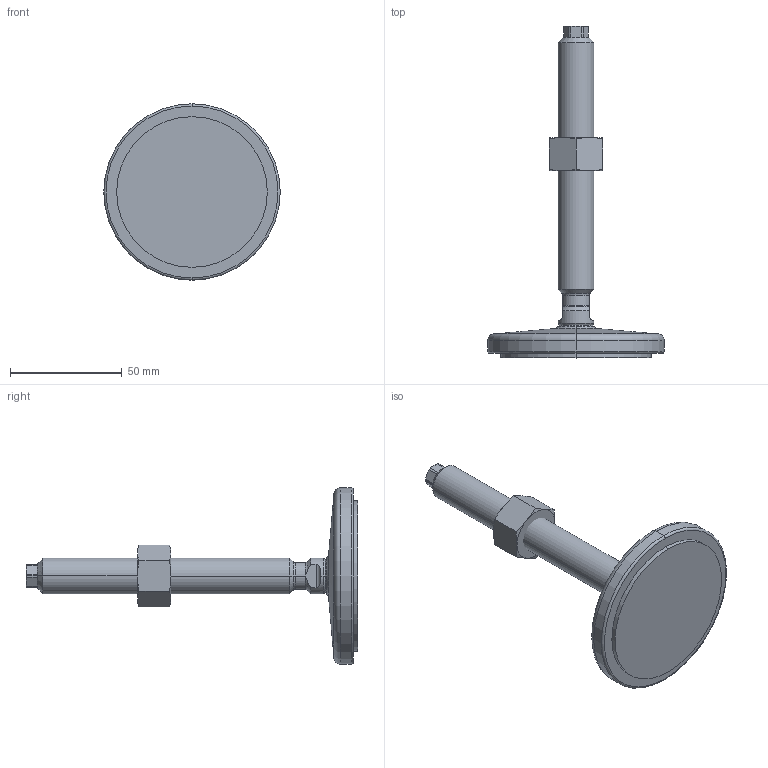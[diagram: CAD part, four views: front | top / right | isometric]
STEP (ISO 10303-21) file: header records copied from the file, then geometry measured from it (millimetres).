
FILE_DESCRIPTION (( 'STEP AP214' ), '1' );
FILE_NAME ('21-80-M16-125-D1-VK.step', '2020-10-02T17:36:28', ( '' ), ( '' ), 'SwSTEP 2.0', 'SolidWorks 2019', '' );
FILE_SCHEMA (( 'AUTOMOTIVE_DESIGN' ));
Length unit declared in the file: millimetre
Products named in the file (4): 21-80-M16-125-D1-VK; WB4032^WB21_V_M16; WB21_Spindel_V^WB21_V_M16-125; WB21_Fußteller 21^WB21_V_D1-080-R10-B7 (M8 M10_M12_M16)
Assembly tree (3 placements, depth 2):
  21-80-M16-125-D1-VK
    WB21_Fußteller 21^WB21_V_D1-080-R10-B7 (M8 M10_M12_M16)
    WB21_Spindel_V^WB21_V_M16-125
    WB4032^WB21_V_M16
Bounding box: 79 x 148.64 x 79 mm (x, y, z)
Volume: 84736.6 mm3; surface area: 21825.4 mm2
Topology: 3 solids, 3 shells, 98 faces, 219 edges, 129 vertices
Faces by surface type: cone 29, plane 28, cylinder 27, torus 10, sphere 4
Entity records: 3121 total; most frequent: CARTESIAN_POINT 728, DIRECTION 476, ORIENTED_EDGE 438, EDGE_CURVE 219, AXIS2_PLACEMENT_3D 205, VERTEX_POINT 129, EDGE_LOOP 102, CIRCLE 101
